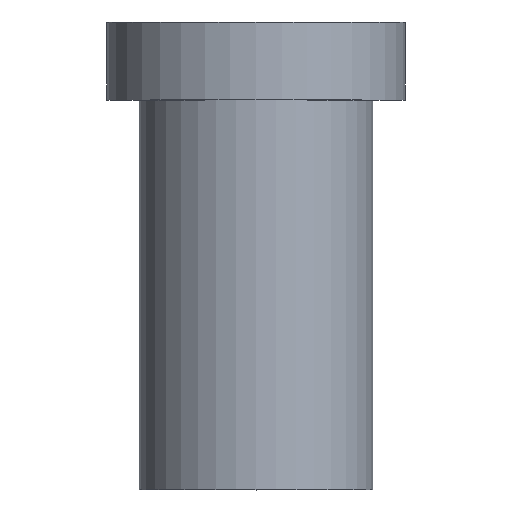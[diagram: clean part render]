
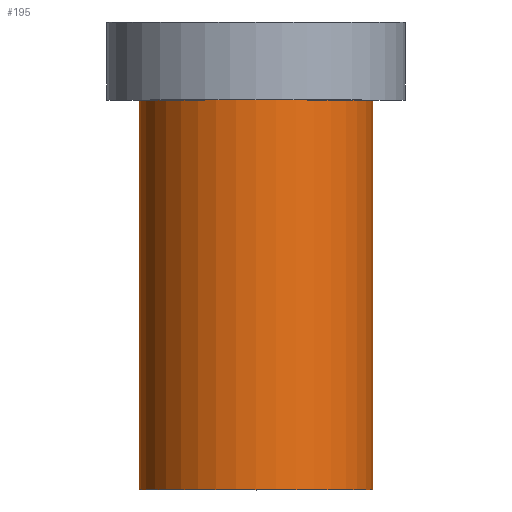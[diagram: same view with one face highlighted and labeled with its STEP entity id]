
A CAD part, top view. The second image highlights one B-rep face of the part: STEP entity #195.
In plain terms, the highlighted cylindrical face has radius 9 mm (diameter 18 mm), a full revolution.
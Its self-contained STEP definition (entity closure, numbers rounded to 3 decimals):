
#32=ORIENTED_EDGE('',*,*,#50,.T.);
#33=ORIENTED_EDGE('',*,*,#49,.F.);
#49=EDGE_CURVE('',#59,#59,#69,.T.);
#50=EDGE_CURVE('',#60,#60,#70,.T.);
#59=VERTEX_POINT('',#280);
#60=VERTEX_POINT('',#283);
#69=CIRCLE('',#213,9.);
#70=CIRCLE('',#215,9.);
#82=EDGE_LOOP('',(#32));
#83=EDGE_LOOP('',(#33));
#102=FACE_BOUND('',#82,.T.);
#103=FACE_BOUND('',#83,.T.);
#117=CYLINDRICAL_SURFACE('',#214,9.);
#195=ADVANCED_FACE('',(#102,#103),#117,.T.);
#213=AXIS2_PLACEMENT_3D('',#279,#241,#242);
#214=AXIS2_PLACEMENT_3D('',#281,#243,#244);
#215=AXIS2_PLACEMENT_3D('',#282,#245,#246);
#241=DIRECTION('',(0.,-1.,0.));
#242=DIRECTION('',(0.,0.,-1.));
#243=DIRECTION('',(0.,-1.,0.));
#244=DIRECTION('',(0.,0.,-1.));
#245=DIRECTION('',(0.,-1.,0.));
#246=DIRECTION('',(0.,0.,-1.));
#279=CARTESIAN_POINT('',(0.,0.,0.));
#280=CARTESIAN_POINT('',(0.,0.,-9.));
#281=CARTESIAN_POINT('',(0.,0.,0.));
#282=CARTESIAN_POINT('',(0.,30.,0.));
#283=CARTESIAN_POINT('',(0.,30.,-9.));
